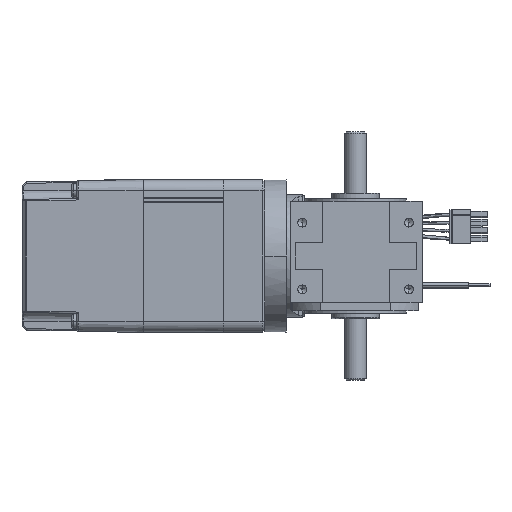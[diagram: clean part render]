
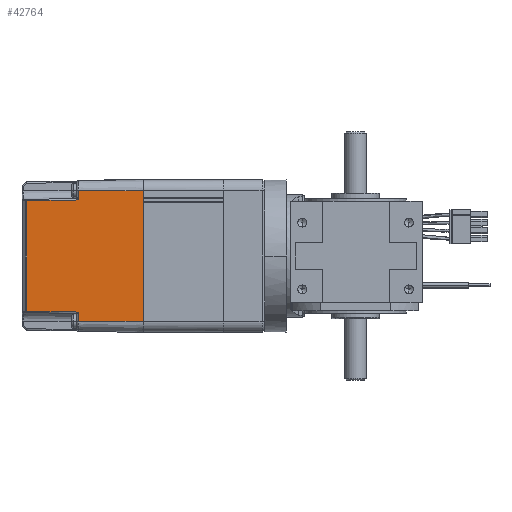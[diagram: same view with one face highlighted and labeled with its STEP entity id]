
A CAD part, front view. The second image highlights one B-rep face of the part: STEP entity #42764.
In plain terms, the highlighted planar face has unit normal (-0.018, -1, 0) as drawn and (0, 0.017, -1) by its records, which use the part's own axes.
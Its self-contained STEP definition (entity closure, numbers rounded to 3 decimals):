
#758 = DIRECTION ( 'NONE',  ( 0., 1., 0.017 ) ) ;
#1262 = LINE ( 'NONE', #17873, #29165 ) ;
#3164 = LINE ( 'NONE', #19758, #4029 ) ;
#3850 = VECTOR ( 'NONE', #49375, 1000. ) ;
#4029 = VECTOR ( 'NONE', #40916, 1000. ) ;
#6328 = ORIENTED_EDGE ( 'NONE', *, *, #10501, .T. ) ;
#7772 = DIRECTION ( 'NONE',  ( -1., 0., 0. ) ) ;
#8922 = PLANE ( 'NONE',  #24349 ) ;
#9137 = CARTESIAN_POINT ( 'NONE',  ( -24.5, 45.501, -28.55 ) ) ;
#10153 = EDGE_CURVE ( 'NONE', #37117, #36112, #19118, .T. ) ;
#10489 = ORIENTED_EDGE ( 'NONE', *, *, #35467, .T. ) ;
#10501 = EDGE_CURVE ( 'NONE', #23948, #53199, #42944, .T. ) ;
#10938 = DIRECTION ( 'NONE',  ( -1., 0., 0. ) ) ;
#11499 = ORIENTED_EDGE ( 'NONE', *, *, #10153, .F. ) ;
#13244 = DIRECTION ( 'NONE',  ( -0.017, 1., 0.017 ) ) ;
#17873 = CARTESIAN_POINT ( 'NONE',  ( 20.637, 91.104, -27.754 ) ) ;
#19118 = LINE ( 'NONE', #52508, #26525 ) ;
#19758 = CARTESIAN_POINT ( 'NONE',  ( -21.437, 45.245, -28.554 ) ) ;
#21514 = ORIENTED_EDGE ( 'NONE', *, *, #49639, .F. ) ;
#21701 = DIRECTION ( 'NONE',  ( 0., 0.017, -1. ) ) ;
#22192 = LINE ( 'NONE', #48472, #51984 ) ;
#23948 = VERTEX_POINT ( 'NONE', #36873 ) ;
#24090 = VERTEX_POINT ( 'NONE', #26445 ) ;
#24349 = AXIS2_PLACEMENT_3D ( 'NONE', #49685, #21701, #758 ) ;
#25092 = VERTEX_POINT ( 'NONE', #37147 ) ;
#25210 = VERTEX_POINT ( 'NONE', #26253 ) ;
#26253 = CARTESIAN_POINT ( 'NONE',  ( -21.008, 69.81, -28.126 ) ) ;
#26445 = CARTESIAN_POINT ( 'NONE',  ( 24.5, 45.5, -28.55 ) ) ;
#26525 = VECTOR ( 'NONE', #10938, 1000. ) ;
#26621 = DIRECTION ( 'NONE',  ( 1., 0., 0. ) ) ;
#27528 = DIRECTION ( 'NONE',  ( 1., 0., 0. ) ) ;
#28622 = ORIENTED_EDGE ( 'NONE', *, *, #52754, .T. ) ;
#28922 = EDGE_CURVE ( 'NONE', #50376, #25210, #22192, .T. ) ;
#29165 = VECTOR ( 'NONE', #13244, 1000. ) ;
#30126 = CARTESIAN_POINT ( 'NONE',  ( 24.5, 69.81, -28.126 ) ) ;
#32948 = DIRECTION ( 'NONE',  ( 0., -1., -0.017 ) ) ;
#33223 = EDGE_CURVE ( 'NONE', #23948, #37117, #1262, .T. ) ;
#33718 = VECTOR ( 'NONE', #7772, 1000. ) ;
#34027 = CARTESIAN_POINT ( 'NONE',  ( 24.5, 45.501, -28.55 ) ) ;
#35467 = EDGE_CURVE ( 'NONE', #25092, #50376, #46373, .T. ) ;
#36112 = VERTEX_POINT ( 'NONE', #40289 ) ;
#36557 = CARTESIAN_POINT ( 'NONE',  ( 30.61, 45.5, -28.55 ) ) ;
#36817 = LINE ( 'NONE', #36557, #33718 ) ;
#36873 = CARTESIAN_POINT ( 'NONE',  ( 21.008, 69.81, -28.126 ) ) ;
#37009 = EDGE_LOOP ( 'NONE', ( #21514, #11499, #52324, #6328, #28622, #38130, #10489, #44782 ) ) ;
#37117 = VERTEX_POINT ( 'NONE', #40299 ) ;
#37147 = CARTESIAN_POINT ( 'NONE',  ( -24.5, 45.5, -28.55 ) ) ;
#37816 = LINE ( 'NONE', #34027, #52865 ) ;
#38130 = ORIENTED_EDGE ( 'NONE', *, *, #38484, .T. ) ;
#38484 = EDGE_CURVE ( 'NONE', #24090, #25092, #36817, .T. ) ;
#40204 = FACE_OUTER_BOUND ( 'NONE', #37009, .T. ) ;
#40289 = CARTESIAN_POINT ( 'NONE',  ( -20.67, 89.197, -27.787 ) ) ;
#40299 = CARTESIAN_POINT ( 'NONE',  ( 20.67, 89.197, -27.787 ) ) ;
#40916 = DIRECTION ( 'NONE',  ( -0.017, -1., -0.017 ) ) ;
#42764 = ADVANCED_FACE ( 'NONE', ( #40204 ), #8922, .T. ) ;
#42944 = LINE ( 'NONE', #47297, #47429 ) ;
#43812 = CARTESIAN_POINT ( 'NONE',  ( -24.5, 69.81, -28.126 ) ) ;
#44782 = ORIENTED_EDGE ( 'NONE', *, *, #28922, .T. ) ;
#46373 = LINE ( 'NONE', #9137, #3850 ) ;
#47297 = CARTESIAN_POINT ( 'NONE',  ( 30.61, 69.81, -28.126 ) ) ;
#47429 = VECTOR ( 'NONE', #26621, 1000. ) ;
#48472 = CARTESIAN_POINT ( 'NONE',  ( 30.61, 69.81, -28.126 ) ) ;
#49375 = DIRECTION ( 'NONE',  ( 0., 1., 0.017 ) ) ;
#49639 = EDGE_CURVE ( 'NONE', #36112, #25210, #3164, .T. ) ;
#49685 = CARTESIAN_POINT ( 'NONE',  ( 30.61, 45.501, -28.55 ) ) ;
#50376 = VERTEX_POINT ( 'NONE', #43812 ) ;
#51984 = VECTOR ( 'NONE', #27528, 1000. ) ;
#52324 = ORIENTED_EDGE ( 'NONE', *, *, #33223, .F. ) ;
#52508 = CARTESIAN_POINT ( 'NONE',  ( -21.371, 89.197, -27.787 ) ) ;
#52754 = EDGE_CURVE ( 'NONE', #53199, #24090, #37816, .T. ) ;
#52865 = VECTOR ( 'NONE', #32948, 1000. ) ;
#53199 = VERTEX_POINT ( 'NONE', #30126 ) ;
